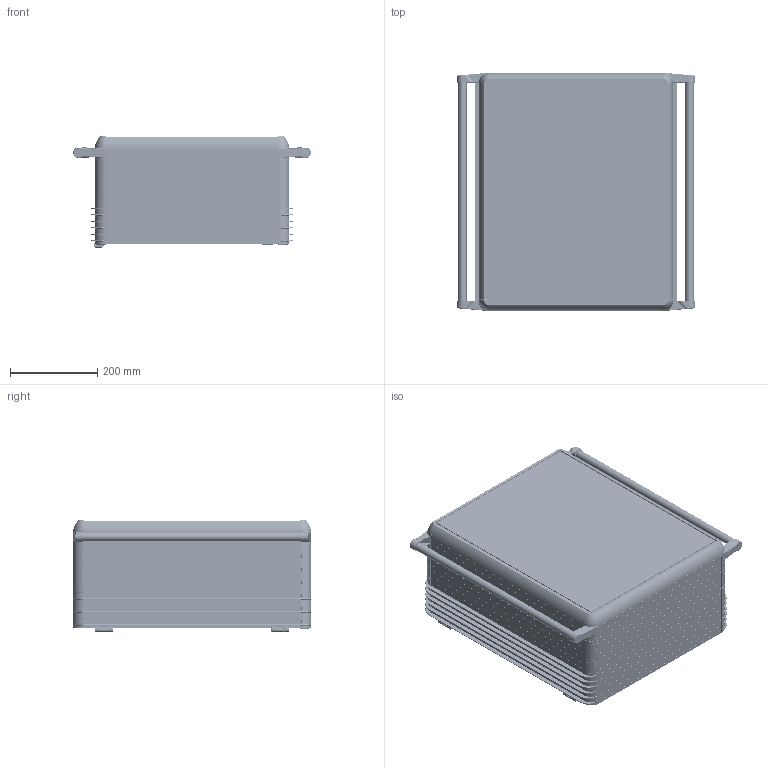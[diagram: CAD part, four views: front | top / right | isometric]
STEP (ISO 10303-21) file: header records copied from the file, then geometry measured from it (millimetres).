
FILE_DESCRIPTION (( 'STEP AP214' ), '1' );
FILE_NAME ('1591-0210.STEP', '2022-04-25T10:12:42', ( '' ), ( '' ), 'SwSTEP 2.0', 'SolidWorks 2022', '' );
FILE_SCHEMA (( 'AUTOMOTIVE_DESIGN' ));
Length unit declared in the file: millimetre
Products named in the file (19): HPECO-150-002; boru_525; 1591-0210; PLSECO-150-001; 400X500; PLSECO-004; x91 menteþeli 400X500; ECO1500-0100(SOL); PLSECO-003; HPECO-150-001_395; ARKA_KAPAK_400X500; 1500-0210; HPECO-150-001_495; HPECOX-090-001_395; HPECOX-090-002_495; PLSECO-150-002; ECO1500-0100(SAÐ); ECO90X(SAÐ)_Soðutmalý; ECO90X(SOL)_Soðutmalý
Assembly tree (29 placements, depth 4):
  1591-0210
    1500-0210
      400X500
      HPECO-150-001_395  x2
      boru_525  x2
      ECO1500-0100(SAÐ)  x2
        HPECO-150-002
        PLSECO-150-002
        PLSECO-150-001
        PLSECO-004
        PLSECO-003
      ECO1500-0100(SOL)  x2
      HPECO-150-001_495  x2
    x91 menteþeli 400X500
      ARKA_KAPAK_400X500
      ECO90X(SAÐ)_Soðutmalý  x2
      ECO90X(SOL)_Soðutmalý  x2
      HPECOX-090-001_395  x2
      HPECOX-090-002_495  x2
Bounding box: 544.62 x 547 x 255.79 mm (x, y, z)
Volume: 5200169.8 mm3; surface area: 3339893.2 mm2
Topology: 76 solids, 126 shells, 16731 faces, 43086 edges, 25998 vertices
Faces by surface type: plane 5263, bspline 5032, cylinder 4556, cone 974, torus 716, sphere 190
Entity records: 425322 total; most frequent: CARTESIAN_POINT 141932, ORIENTED_EDGE 48674, DIRECTION 37835, EDGE_CURVE 24337, VERTEX_POINT 14852, AXIS2_PLACEMENT_3D 13853, VECTOR 10129, LINE 10129
